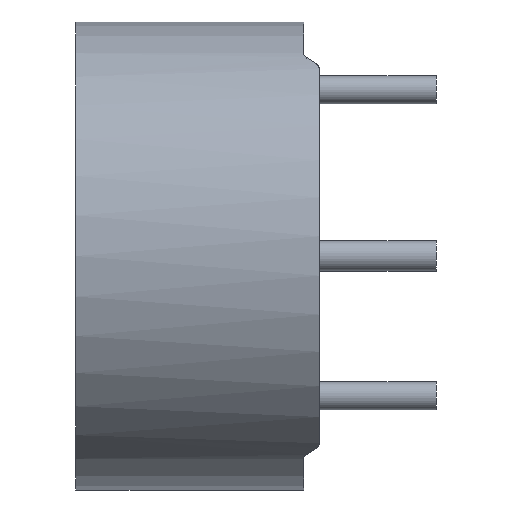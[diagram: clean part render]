
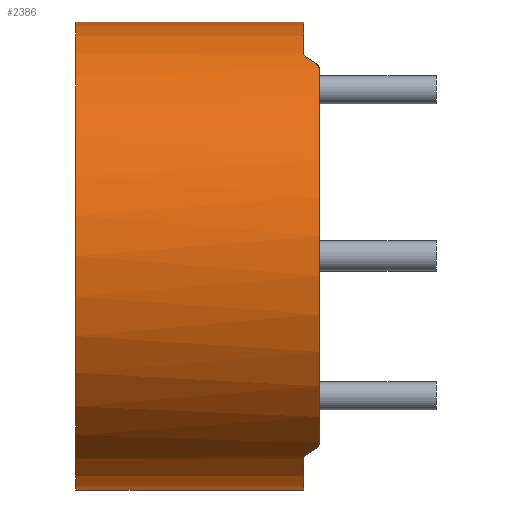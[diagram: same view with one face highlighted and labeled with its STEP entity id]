
A CAD part, left-side view. The second image highlights one B-rep face of the part: STEP entity #2386.
In plain terms, the highlighted cylindrical face has radius 19.05 mm (diameter 38.1 mm), a partial arc.
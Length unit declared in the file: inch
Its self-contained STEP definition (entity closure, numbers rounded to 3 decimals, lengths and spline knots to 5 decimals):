
#41 = EDGE_CURVE ( 'NONE', #2790, #6297, #1766, .T. ) ;
#211 = CARTESIAN_POINT ( 'NONE',  ( -0.44993, -0.39, -0.60006 ) ) ;
#486 = CARTESIAN_POINT ( 'NONE',  ( -0.42871, -0.38121, 0.61539 ) ) ;
#566 = ORIENTED_EDGE ( 'NONE', *, *, #8581, .T. ) ;
#573 = VERTEX_POINT ( 'NONE', #3183 ) ;
#619 = VERTEX_POINT ( 'NONE', #9023 ) ;
#673 = DIRECTION ( 'NONE',  ( 0., 1., 0. ) ) ;
#818 = AXIS2_PLACEMENT_3D ( 'NONE', #8240, #3287, #3953 ) ;
#869 = EDGE_CURVE ( 'NONE', #7881, #6299, #6204, .T. ) ;
#884 = EDGE_CURVE ( 'NONE', #4779, #9231, #7461, .T. ) ;
#960 = CARTESIAN_POINT ( 'NONE',  ( -0.42871, -0.38121, 0.61539 ) ) ;
#974 = CARTESIAN_POINT ( 'NONE',  ( -0.39629, -0.34879, -0.63675 ) ) ;
#1071 = CARTESIAN_POINT ( 'NONE',  ( 0., -0.34, -0.75 ) ) ;
#1286 = ORIENTED_EDGE ( 'NONE', *, *, #884, .T. ) ;
#1313 = CARTESIAN_POINT ( 'NONE',  ( -0.41809, -0.37059, 0.62279 ) ) ;
#1421 = ORIENTED_EDGE ( 'NONE', *, *, #5754, .F. ) ;
#1428 = ORIENTED_EDGE ( 'NONE', *, *, #4591, .T. ) ;
#1443 = DIRECTION ( 'NONE',  ( 0., -1., 0. ) ) ;
#1552 = VECTOR ( 'NONE', #2812, 39.37008 ) ;
#1600 = CARTESIAN_POINT ( 'NONE',  ( -0.41809, -0.37059, -0.62279 ) ) ;
#1629 = CARTESIAN_POINT ( 'NONE',  ( -0.43514, -0.3864, 0.61088 ) ) ;
#1688 = FACE_OUTER_BOUND ( 'NONE', #5042, .T. ) ;
#1733 = CYLINDRICAL_SURFACE ( 'NONE', #818, 0.75 ) ;
#1762 = CARTESIAN_POINT ( 'NONE',  ( -0.38998, -0.34368, -0.64065 ) ) ;
#1766 = B_SPLINE_CURVE_WITH_KNOTS ( 'NONE', 3,
 ( #6795, #8225, #8183, #2287 ),
 .UNSPECIFIED., .F., .F.,
 ( 4, 4 ),
 ( 0., 0.00068 ),
 .UNSPECIFIED. ) ;
#1901 = DIRECTION ( 'NONE',  ( 0., 1., 0. ) ) ;
#2094 = VERTEX_POINT ( 'NONE', #1071 ) ;
#2135 = ORIENTED_EDGE ( 'NONE', *, *, #5624, .T. ) ;
#2286 = CARTESIAN_POINT ( 'NONE',  ( -0.43173, -0.38423, 0.61329 ) ) ;
#2287 = CARTESIAN_POINT ( 'NONE',  ( -0.37507, -0.34, 0.64948 ) ) ;
#2386 = ADVANCED_FACE ( 'NONE', ( #1688 ), #1733, .T. ) ;
#2467 = CARTESIAN_POINT ( 'NONE',  ( -0.37507, -0.34, -0.64948 ) ) ;
#2507 = CARTESIAN_POINT ( 'NONE',  ( -0.44993, -0.39, 0.60006 ) ) ;
#2588 = ORIENTED_EDGE ( 'NONE', *, *, #6494, .F. ) ;
#2667 = CIRCLE ( 'NONE', #2741, 0.75 ) ;
#2741 = AXIS2_PLACEMENT_3D ( 'NONE', #8369, #8272, #6280 ) ;
#2790 = VERTEX_POINT ( 'NONE', #5311 ) ;
#2805 = DIRECTION ( 'NONE',  ( 0., 0., 1. ) ) ;
#2812 = DIRECTION ( 'NONE',  ( 0., -1., 0. ) ) ;
#2826 = CARTESIAN_POINT ( 'NONE',  ( -0.42871, -0.38121, 0.61539 ) ) ;
#2950 = CARTESIAN_POINT ( 'NONE',  ( -0.44993, -0.39, 0.60006 ) ) ;
#3041 = AXIS2_PLACEMENT_3D ( 'NONE', #3566, #5700, #2805 ) ;
#3136 = CARTESIAN_POINT ( 'NONE',  ( -0.42871, -0.38121, -0.61539 ) ) ;
#3183 = CARTESIAN_POINT ( 'NONE',  ( 0., -0.34, 0.75 ) ) ;
#3234 = EDGE_CURVE ( 'NONE', #4084, #2790, #5906, .T. ) ;
#3287 = DIRECTION ( 'NONE',  ( 0., -1., 0. ) ) ;
#3401 = CARTESIAN_POINT ( 'NONE',  ( -0.37507, -0.34, -0.64948 ) ) ;
#3566 = CARTESIAN_POINT ( 'NONE',  ( 0., -0.34, 0. ) ) ;
#3573 = LINE ( 'NONE', #9314, #1552 ) ;
#3671 = CARTESIAN_POINT ( 'NONE',  ( 0., 0.39, 0.75 ) ) ;
#3684 = VERTEX_POINT ( 'NONE', #8418 ) ;
#3741 = ORIENTED_EDGE ( 'NONE', *, *, #869, .T. ) ;
#3800 = CIRCLE ( 'NONE', #3041, 0.75 ) ;
#3806 = CARTESIAN_POINT ( 'NONE',  ( -0.43472, -0.38722, -0.6112 ) ) ;
#3953 = DIRECTION ( 'NONE',  ( 0., 0., -1. ) ) ;
#3987 = CARTESIAN_POINT ( 'NONE',  ( -0.39629, -0.34879, -0.63675 ) ) ;
#4084 = VERTEX_POINT ( 'NONE', #486 ) ;
#4260 = ORIENTED_EDGE ( 'NONE', *, *, #4684, .T. ) ;
#4478 = CARTESIAN_POINT ( 'NONE',  ( -0.42871, -0.38121, -0.61539 ) ) ;
#4591 = EDGE_CURVE ( 'NONE', #9231, #5489, #2667, .T. ) ;
#4658 = CARTESIAN_POINT ( 'NONE',  ( -0.39336, -0.34586, -0.63857 ) ) ;
#4684 = EDGE_CURVE ( 'NONE', #2094, #7881, #3800, .T. ) ;
#4779 = VERTEX_POINT ( 'NONE', #4478 ) ;
#5042 = EDGE_LOOP ( 'NONE', ( #2588, #1421, #566, #4260, #3741, #6869, #1286, #1428, #7100, #5771, #6366, #2135 ) ) ;
#5311 = CARTESIAN_POINT ( 'NONE',  ( -0.39629, -0.34879, 0.63675 ) ) ;
#5489 = VERTEX_POINT ( 'NONE', #2507 ) ;
#5624 = EDGE_CURVE ( 'NONE', #6297, #573, #7464, .T. ) ;
#5700 = DIRECTION ( 'NONE',  ( 0., 1., 0. ) ) ;
#5703 = B_SPLINE_CURVE_WITH_KNOTS ( 'NONE', 3,
 ( #2950, #5849, #7468, #1629, #2286, #960 ),
 .UNSPECIFIED., .F., .F.,
 ( 4, 2, 4 ),
 ( 0., 0.00036, 0.00071 ),
 .UNSPECIFIED. ) ;
#5754 = EDGE_CURVE ( 'NONE', #3684, #619, #6839, .T. ) ;
#5771 = ORIENTED_EDGE ( 'NONE', *, *, #3234, .T. ) ;
#5849 = CARTESIAN_POINT ( 'NONE',  ( -0.44614, -0.39, 0.60289 ) ) ;
#5906 =( BOUNDED_CURVE ( )  B_SPLINE_CURVE ( 3, ( #2826, #1313, #6346, #8532 ),
 .UNSPECIFIED., .F., .F. ) 
 B_SPLINE_CURVE_WITH_KNOTS ( ( 4, 4 ),
 ( 0.96232, 1.0141 ),
 .UNSPECIFIED. ) 
 CURVE ( )  GEOMETRIC_REPRESENTATION_ITEM ( )  RATIONAL_B_SPLINE_CURVE ( ( 1., 1., 1., 1. ) ) 
 REPRESENTATION_ITEM ( '' )  );
#5938 = AXIS2_PLACEMENT_3D ( 'NONE', #9160, #1901, #6222 ) ;
#6204 = B_SPLINE_CURVE_WITH_KNOTS ( 'NONE', 3,
 ( #2467, #8138, #8315, #1762, #4658, #3987 ),
 .UNSPECIFIED., .F., .F.,
 ( 4, 2, 4 ),
 ( 0., 0.00034, 0.00067 ),
 .UNSPECIFIED. ) ;
#6222 = DIRECTION ( 'NONE',  ( 0., 0., 1. ) ) ;
#6243 = AXIS2_PLACEMENT_3D ( 'NONE', #7171, #673, #7220 ) ;
#6280 = DIRECTION ( 'NONE',  ( 0., 0., 1. ) ) ;
#6297 = VERTEX_POINT ( 'NONE', #8197 ) ;
#6299 = VERTEX_POINT ( 'NONE', #974 ) ;
#6304 = EDGE_CURVE ( 'NONE', #6299, #4779, #7803, .T. ) ;
#6346 = CARTESIAN_POINT ( 'NONE',  ( -0.40728, -0.35978, 0.62991 ) ) ;
#6366 = ORIENTED_EDGE ( 'NONE', *, *, #41, .T. ) ;
#6429 = LINE ( 'NONE', #3671, #8147 ) ;
#6494 = EDGE_CURVE ( 'NONE', #619, #573, #6429, .T. ) ;
#6670 = CARTESIAN_POINT ( 'NONE',  ( -0.42871, -0.38121, -0.61539 ) ) ;
#6761 = CARTESIAN_POINT ( 'NONE',  ( -0.40728, -0.35978, -0.62991 ) ) ;
#6795 = CARTESIAN_POINT ( 'NONE',  ( -0.39629, -0.34879, 0.63675 ) ) ;
#6839 = CIRCLE ( 'NONE', #6243, 0.75 ) ;
#6869 = ORIENTED_EDGE ( 'NONE', *, *, #6304, .T. ) ;
#6964 = EDGE_CURVE ( 'NONE', #5489, #4084, #5703, .T. ) ;
#7100 = ORIENTED_EDGE ( 'NONE', *, *, #6964, .T. ) ;
#7171 = CARTESIAN_POINT ( 'NONE',  ( 0., 0.39, 0. ) ) ;
#7220 = DIRECTION ( 'NONE',  ( 0., 0., 1. ) ) ;
#7461 = B_SPLINE_CURVE_WITH_KNOTS ( 'NONE', 3,
 ( #3136, #3806, #8226, #211 ),
 .UNSPECIFIED., .F., .F.,
 ( 4, 4 ),
 ( 0., 0.00071 ),
 .UNSPECIFIED. ) ;
#7464 = CIRCLE ( 'NONE', #5938, 0.75 ) ;
#7468 = CARTESIAN_POINT ( 'NONE',  ( -0.44242, -0.38931, 0.60563 ) ) ;
#7803 =( BOUNDED_CURVE ( )  B_SPLINE_CURVE ( 3, ( #8811, #6761, #1600, #6670 ),
 .UNSPECIFIED., .F., .F. ) 
 B_SPLINE_CURVE_WITH_KNOTS ( ( 4, 4 ),
 ( 5.26908, 5.32086 ),
 .UNSPECIFIED. ) 
 CURVE ( )  GEOMETRIC_REPRESENTATION_ITEM ( )  RATIONAL_B_SPLINE_CURVE ( ( 1., 1., 1., 1. ) ) 
 REPRESENTATION_ITEM ( '' )  );
#7813 = CARTESIAN_POINT ( 'NONE',  ( -0.44993, -0.39, -0.60006 ) ) ;
#7881 = VERTEX_POINT ( 'NONE', #3401 ) ;
#8138 = CARTESIAN_POINT ( 'NONE',  ( -0.37898, -0.34, -0.64722 ) ) ;
#8147 = VECTOR ( 'NONE', #1443, 39.37008 ) ;
#8183 = CARTESIAN_POINT ( 'NONE',  ( -0.38287, -0.34, 0.64498 ) ) ;
#8197 = CARTESIAN_POINT ( 'NONE',  ( -0.37507, -0.34, 0.64948 ) ) ;
#8225 = CARTESIAN_POINT ( 'NONE',  ( -0.39045, -0.34295, 0.64039 ) ) ;
#8226 = CARTESIAN_POINT ( 'NONE',  ( -0.44237, -0.39, -0.60572 ) ) ;
#8240 = CARTESIAN_POINT ( 'NONE',  ( 0., 0.39, 0. ) ) ;
#8272 = DIRECTION ( 'NONE',  ( 0., 1., 0. ) ) ;
#8315 = CARTESIAN_POINT ( 'NONE',  ( -0.38274, -0.34073, -0.645 ) ) ;
#8369 = CARTESIAN_POINT ( 'NONE',  ( 0., -0.39, 0. ) ) ;
#8418 = CARTESIAN_POINT ( 'NONE',  ( 0., 0.39, -0.75 ) ) ;
#8532 = CARTESIAN_POINT ( 'NONE',  ( -0.39629, -0.34879, 0.63675 ) ) ;
#8581 = EDGE_CURVE ( 'NONE', #3684, #2094, #3573, .T. ) ;
#8811 = CARTESIAN_POINT ( 'NONE',  ( -0.39629, -0.34879, -0.63675 ) ) ;
#9023 = CARTESIAN_POINT ( 'NONE',  ( 0., 0.39, 0.75 ) ) ;
#9160 = CARTESIAN_POINT ( 'NONE',  ( 0., -0.34, 0. ) ) ;
#9231 = VERTEX_POINT ( 'NONE', #7813 ) ;
#9314 = CARTESIAN_POINT ( 'NONE',  ( 0., 0.39, -0.75 ) ) ;
